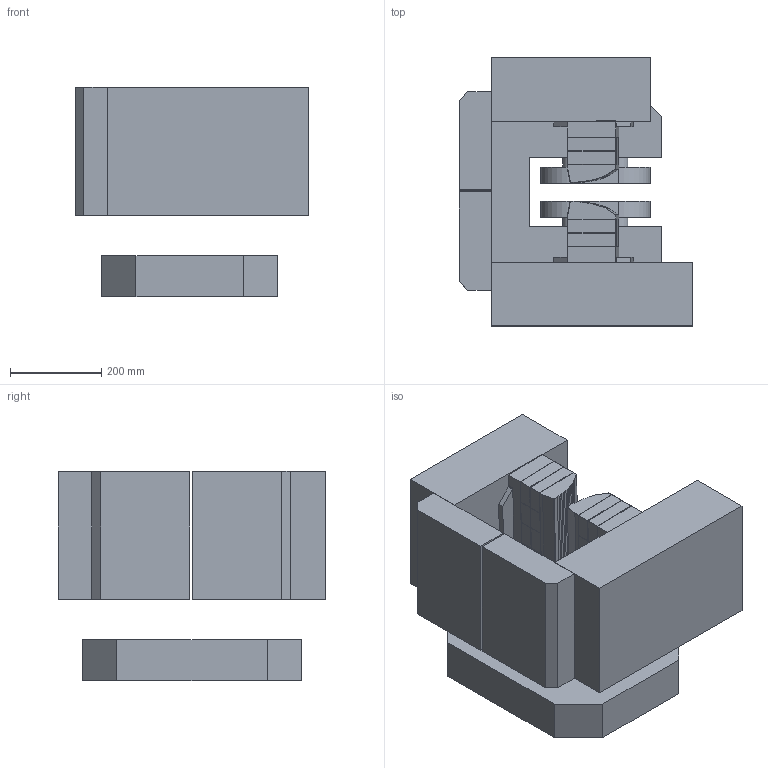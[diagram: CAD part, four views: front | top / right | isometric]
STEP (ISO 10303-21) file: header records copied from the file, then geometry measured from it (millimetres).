
FILE_DESCRIPTION(('STEP AP214'),'1');
FILE_NAME('Complete_Superbend_BC_model2_Adapted_step.step','2021-06-18T18:32:05',(' '),(' '),'Spatial InterOp 3D',' ',' ');
FILE_SCHEMA(('AUTOMOTIVE_DESIGN { 1 0 10303 214 1 1 1 1 }'));
Length unit declared in the file: millimetre
Products named in the file (1): low_field_magnets,low_field_magnets,yn#1
Bounding box: 511 x 586 x 458 mm (x, y, z)
Volume: 59223349 mm3; surface area: 2574900.5 mm2
Topology: 33 solids, 33 shells, 710 faces, 1414 edges, 770 vertices
Faces by surface type: plane 690, cylinder 20
Entity records: 17437 total; most frequent: DIRECTION 2940, CARTESIAN_POINT 2927, ORIENTED_EDGE 2828, EDGE_CURVE 1414, LINE 1374, VECTOR 1374, AXIS2_PLACEMENT_3D 783, VERTEX_POINT 770
